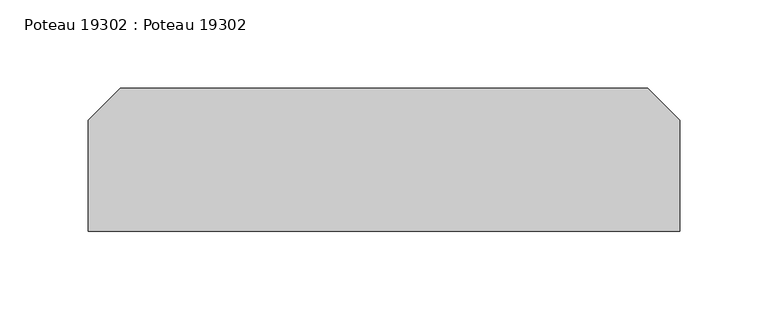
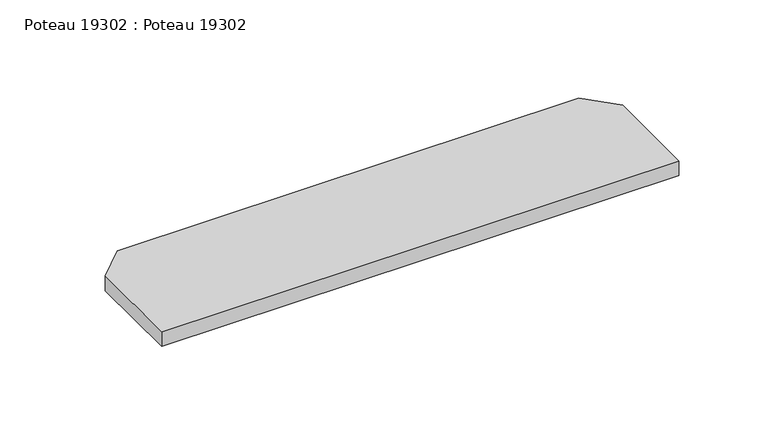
"""IFC4 building model written with IfcOpenShell, lengths in millimetres: beam geometry, Poteau 19302 : Poteau 19302."""

import ifcopenshell
import ifcopenshell.guid

model = None  # the IFC model being written
_history = None  # IfcOwnerHistory: only IFC2X3 demands one
_inside = {}  # id of a spatial element -> (the spatial element, [elements in it])
_under = {}  # id of a project, library or spatial element -> (it, [spatial elements below it])
_declared = {}  # id of a project -> (the project, [libraries it declares])
_typed = {}  # id of a type object -> (the type object, [elements of that type])
_made_of = {}  # id of a material, layer set ... -> (it, [elements and type objects made of it])


def new_model(schema):
    """Start an empty IFC model of exactly this schema.

    Asked for "IFC4X3", IfcOpenShell would pick the latest addendum, in which some entities
    have other attributes; the version numbers below select the first issue.
    IFC2X3 requires an IfcOwnerHistory on every rooted entity: one is made here for all.
    """
    global model, _history
    if schema == "IFC4X3":
        model = ifcopenshell.file(schema_version=(4, 3, 0, 0))
    else:
        model = ifcopenshell.file(schema=schema)
    _inside.clear()
    _under.clear()
    _declared.clear()
    _typed.clear()
    _made_of.clear()
    _history = None
    if model.schema == "IFC2X3":
        org = make("IfcOrganization", Name="unknown")
        user = make(
            "IfcPersonAndOrganization",
            ThePerson=make("IfcPerson", FamilyName="unknown"),
            TheOrganization=org,
        )
        app = make(
            "IfcApplication",
            ApplicationDeveloper=org,
            Version="unknown",
            ApplicationFullName="unknown",
            ApplicationIdentifier="unknown",
        )
        _history = make(
            "IfcOwnerHistory",
            OwningUser=user,
            OwningApplication=app,
            ChangeAction="ADDED",
            CreationDate=0,
        )
    return model


def make(cls, **values):
    """One entity of the class cls with the attributes given. An attribute that is None is left unset."""
    return model.create_entity(
        cls, **{name: value for name, value in values.items() if value is not None}
    )


def rooted(cls, **values):
    """An entity with a GlobalId (a new one), such as an element, a storey or a relation."""
    return make(cls, GlobalId=ifcopenshell.guid.new(), OwnerHistory=_history, **values)


def si_unit(unit_type, name, prefix=None):
    """IfcSIUnit, for example si_unit("LENGTHUNIT", "METRE", prefix="MILLI")."""
    return make("IfcSIUnit", UnitType=unit_type, Prefix=prefix, Name=name)


def assignment(units):
    """IfcUnitAssignment: the units of a project."""
    return None if units is None else make("IfcUnitAssignment", Units=units)


def point(xyz):
    """IfcCartesianPoint."""
    return None if xyz is None else make("IfcCartesianPoint", Coordinates=xyz)


def direction(xyz):
    """IfcDirection."""
    return None if xyz is None else make("IfcDirection", DirectionRatios=xyz)


def frame(location, z_axis=None, x_axis=None):
    """IfcAxis2Placement3D, a coordinate frame: its origin and axes. An axis left out is left unset."""
    return make(
        "IfcAxis2Placement3D",
        Location=point(location),
        Axis=direction(z_axis),
        RefDirection=direction(x_axis),
    )


def origin():
    """The frame at (0, 0, 0) with its axes left unset."""
    return frame((0.0, 0.0, 0.0))


def place(relative_to, where):
    """IfcLocalPlacement: puts the frame where relative to a parent placement (None: the world)."""
    return make(
        "IfcLocalPlacement", PlacementRelTo=relative_to, RelativePlacement=where
    )


def context(
    kind, dimensions, precision=None, world=None, true_north=None, identifier=None
):
    """IfcGeometricRepresentationContext, for example the 3D "Model" context."""
    return make(
        "IfcGeometricRepresentationContext",
        ContextIdentifier=identifier,
        ContextType=kind,
        CoordinateSpaceDimension=dimensions,
        Precision=precision,
        WorldCoordinateSystem=world,
        TrueNorth=true_north,
    )


def project(units=None, contexts=None):
    """IfcProject with its units and contexts."""
    return rooted(
        "IfcProject",
        Name="project",
        RepresentationContexts=contexts,
        UnitsInContext=assignment(units),
    )


def spatial(cls, under=None, at=None, **own):
    """A site, building, storey or space (cls), placed at a placement, below another one or the project."""
    s = rooted(cls, ObjectPlacement=at, **own)
    if under is not None:
        _under.setdefault(under.id(), (under, []))[1].append(s)
    return s


def polyline(points):
    """IfcPolyline through the points."""
    return make("IfcPolyline", Points=[point(p) for p in points])


def outline(outer, holes=None, kind="AREA"):
    """IfcArbitraryClosedProfileDef: a profile drawn as a closed curve; with holes, ...WithVoids."""
    if holes is None:
        return make("IfcArbitraryClosedProfileDef", ProfileType=kind, OuterCurve=outer)
    return make(
        "IfcArbitraryProfileDefWithVoids",
        ProfileType=kind,
        OuterCurve=outer,
        InnerCurves=holes,
    )


def extrude(swept, where, along, depth):
    """IfcExtrudedAreaSolid: the profile swept, set in the frame where, extruded along a direction by depth."""
    return make(
        "IfcExtrudedAreaSolid",
        SweptArea=swept,
        Position=where,
        ExtrudedDirection=direction(along),
        Depth=depth,
    )


def shape(context_of_items, identifier, shape_type, items):
    """IfcShapeRepresentation: the items that make up one representation, for example the "Body"."""
    return make(
        "IfcShapeRepresentation",
        ContextOfItems=context_of_items,
        RepresentationIdentifier=identifier,
        RepresentationType=shape_type,
        Items=items,
    )


def source(mapping_origin, context_of_items, identifier, shape_type, items):
    """IfcRepresentationMap: a shape defined once, which mapped items show again and again."""
    return make(
        "IfcRepresentationMap",
        MappingOrigin=mapping_origin,
        MappedRepresentation=shape(context_of_items, identifier, shape_type, items),
    )


def transform(
    local_origin,
    x_axis=None,
    y_axis=None,
    z_axis=None,
    scale=None,
    scale2=None,
    scale3=None,
    uniform=True,
):
    """IfcCartesianTransformationOperator3D, or its non-uniform kind. x_axis, y_axis, z_axis: its Axis1, 2, 3."""
    if uniform:
        return make(
            "IfcCartesianTransformationOperator3D",
            Axis1=direction(x_axis),
            Axis2=direction(y_axis),
            LocalOrigin=point(local_origin),
            Scale=scale,
            Axis3=direction(z_axis),
        )
    return make(
        "IfcCartesianTransformationOperator3DnonUniform",
        Axis1=direction(x_axis),
        Axis2=direction(y_axis),
        LocalOrigin=point(local_origin),
        Scale=scale,
        Axis3=direction(z_axis),
        Scale2=scale2,
        Scale3=scale3,
    )


def mapped(mapping_source, mapping_target):
    """IfcMappedItem: shows the shape of a source again, moved by a transform."""
    return make(
        "IfcMappedItem", MappingSource=mapping_source, MappingTarget=mapping_target
    )


def made_of(thing, what):
    """Note that an element or type object is made of a material, layer set ...; save() writes the relation."""
    if what is not None:
        _made_of.setdefault(what.id(), (what, []))[1].append(thing)
    return thing


def element(
    cls,
    number,
    at=None,
    inside=None,
    cuts=None,
    type_object=None,
    material=None,
    context=None,
    identifier="Body",
    shape_type=None,
    held_by="IfcProductDefinitionShape",
    body=None,
    shapes=None,
    **own,
):
    """One element of the class cls, such as IfcWall. Its Tag is "e" and its number.

    at: its placement. inside: the storey or other place that contains it. cuts: it is an
    opening in that element (IfcRelVoidsElement). A single representation is given by context,
    identifier, shape_type and body (its items); several are given by shapes. held_by: the class
    of the entity that holds the representations. save() writes the other relations.
    """
    e = rooted(cls, Tag="e%d" % number, ObjectPlacement=at, **own)
    if body is not None:
        shapes = [shape(context, identifier, shape_type, body)]
    if shapes is not None:
        e.Representation = make(held_by, Representations=shapes)
    if inside is not None:
        _inside.setdefault(inside.id(), (inside, []))[1].append(e)
    if cuts is not None:
        rooted(
            "IfcRelVoidsElement", RelatingBuildingElement=cuts, RelatedOpeningElement=e
        )
    if type_object is not None:
        _typed.setdefault(type_object.id(), (type_object, []))[1].append(e)
    return made_of(e, material)


def aggregate(whole, parts):
    """IfcRelAggregates: a whole, such as a stair, and the parts it consists of."""
    return rooted("IfcRelAggregates", RelatingObject=whole, RelatedObjects=parts)


def save(model, path):
    """Write the relations noted so far, then the file.

    IfcRelAggregates (storeys below a building ...), IfcRelContainedInSpatialStructure (elements
    in a storey), IfcRelDefinesByType, IfcRelAssociatesMaterial and IfcRelDeclares: one each for
    every whole, place, type object, material and project.
    """
    for whole, parts in _under.values():
        aggregate(whole, parts)
    for where, things in _inside.values():
        rooted(
            "IfcRelContainedInSpatialStructure",
            RelatedElements=things,
            RelatingStructure=where,
        )
    for kind, things in _typed.values():
        rooted("IfcRelDefinesByType", RelatedObjects=things, RelatingType=kind)
    for what, things in _made_of.values():
        rooted("IfcRelAssociatesMaterial", RelatedObjects=things, RelatingMaterial=what)
    for by, libraries in _declared.values():
        rooted("IfcRelDeclares", RelatingContext=by, RelatedDefinitions=libraries)
    model.write(path)


def poteau_19302_poteau_19302_238f1522(model_context):
    return source(origin(), model_context, "Body", "SweptSolid", [
        extrude(outline(polyline([(-166.9923577, -8622.0), (-148.9923577, -8604.0), (149.6076423, -8604.0), (167.6076423, -8622.0), (167.6076423, -8685.0), (-166.9923577, -8685.0), (-166.9923577, -8622.0)])), frame((0.0, 0.0, 7226.4270331), z_axis=(0.0, 0.0, 1.0), x_axis=(1.0, 0.0, 0.0)), (0.0, 0.0, 1.0), 10.0),
    ])


if __name__ == "__main__":
    model = new_model("IFC4")
    model_context = context("Model", 3, world=origin())
    ifc_project = project(units=[si_unit("LENGTHUNIT", "METRE", prefix="MILLI")], contexts=[model_context])
    site = spatial("IfcSite", under=ifc_project)
    building = spatial("IfcBuilding", under=site)
    placement = place(None, origin())
    poteau_19302_poteau_19302_shape = poteau_19302_poteau_19302_238f1522(model_context)
    element("IfcBeam", 1, ObjectType="Poteau 19302 : Poteau 19302", at=placement, inside=building, context=model_context, shape_type="MappedRepresentation", body=[
        mapped(poteau_19302_poteau_19302_shape, transform((0.0, 0.0, 0.0), x_axis=(1.0, 0.0, 0.0), y_axis=(0.0, 1.0, 0.0), z_axis=(0.0, 0.0, 1.0))),
    ])
    save(model, "model.ifc")
